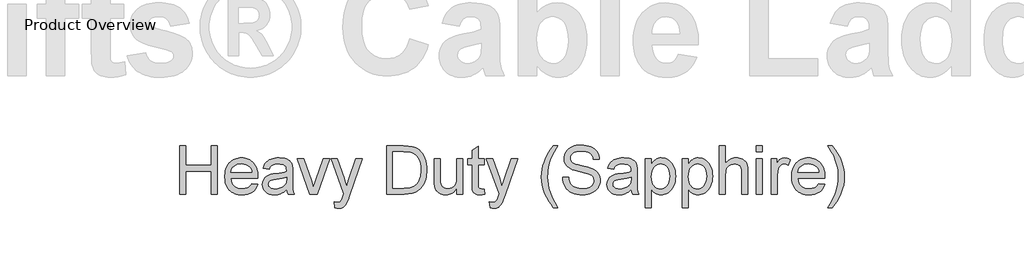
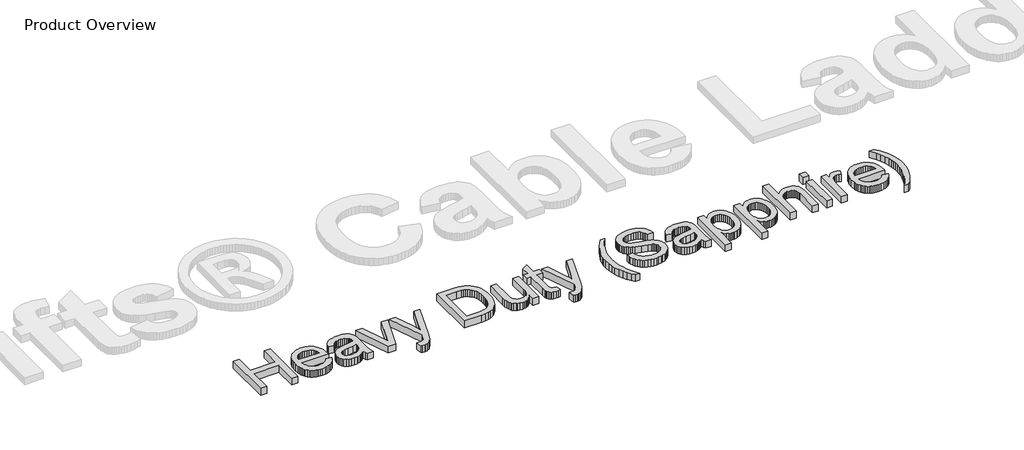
# One storey, part 10 of 11: 1 proxy.
"""IFC4 building model written with IfcOpenShell, lengths in millimetres."""

from ifc_helpers import new_model, si_unit, origin, origin_with_axes, place, context, project, spatial, polyline, outline, extrude, element, save

model = new_model("IFC4")

# Units and contexts
model_context = context("Model", 3, world=origin())
ifc_project = project(units=[si_unit("LENGTHUNIT", "METRE", prefix="MILLI")], contexts=[model_context])

# Site, building, storey
site = spatial("IfcSite", under=ifc_project)
building = spatial("IfcBuilding", under=site)
storey = spatial("IfcBuildingStorey", under=building, Name="Product Overview", Elevation=0.0)

# Proxy
placement = place(None, origin())
element("IfcBuildingElementProxy", 1, Name="1000mm", ObjectType="1000mm", at=placement, inside=storey, context=model_context, shape_type="SweptSolid", body=[
    extrude(outline(polyline([(-4886.9147151, -2802.9625714), (-4886.9147151, -1823.568632), (-4764.4904726, -1823.568632), (-4764.4904726, -2221.4474199), (-4244.1874423, -2221.4474199), (-4244.1874423, -1823.568632), (-4121.7631999, -1823.568632), (-4121.7631999, -2802.9625714), (-4244.1874423, -2802.9625714), (-4244.1874423, -2343.8716623), (-4764.4904726, -2343.8716623), (-4764.4904726, -2802.9625714), (-4886.9147151, -2802.9625714)])), origin_with_axes(), (0.0, 0.0, 1.0), 150.0),
    extrude(outline(polyline([(-3419.2584651, -2588.7201471), (-3299.2253211, -2604.0231774), (-3317.6293073, -2652.0992013), (-3342.474315, -2694.4664776), (-3373.7603442, -2731.1250063), (-3411.487395, -2762.0747873), (-3455.2669138, -2786.6582686), (-3504.7103472, -2804.2178981), (-3559.8176951, -2814.7536758), (-3620.5889575, -2818.2656017), (-3659.6049598, -2816.7506166), (-3696.5511675, -2812.2056615), (-3731.4275805, -2804.6307362), (-3764.234199, -2794.0258408), (-3794.9710228, -2780.3909753), (-3823.638052, -2763.7261397), (-3850.2352865, -2744.031334), (-3874.7627264, -2721.3065581), (-3896.7869851, -2695.8469634), (-3915.874676, -2667.947701), (-3932.0257991, -2637.6087709), (-3945.2403543, -2604.8301732), (-3955.5183417, -2569.6119078), (-3962.8597612, -2531.9539747), (-3968.7328969, -2449.3191055), (-3962.7999838, -2363.8821677), (-3955.3838424, -2324.9633038), (-3945.0012444, -2288.5775098), (-3931.6521899, -2254.7247858), (-3915.3366788, -2223.4051317), (-3896.0547112, -2194.6185476), (-3873.806287, -2168.3650335), (-3849.192917, -2144.9397405), (-3822.8161118, -2124.63782), (-3794.6758716, -2107.4592718), (-3764.7721961, -2093.404096), (-3733.1050856, -2082.4722926), (-3699.6745399, -2074.6638616), (-3664.4805591, -2069.978803), (-3627.5231431, -2068.4171168), (-3591.7743527, -2069.9750669), (-3557.6955952, -2074.6489173), (-3525.2868705, -2082.4386678), (-3494.5481786, -2093.3443185), (-3465.4795196, -2107.3658695), (-3438.0808935, -2124.5033207), (-3412.3523001, -2144.7566721), (-3388.2937397, -2168.1259236), (-3366.5216672, -2194.3196603), (-3347.6525376, -2223.046467), (-3331.6863511, -2254.3063436), (-3318.6231076, -2288.0992901), (-3308.4628071, -2324.4253066), (-3301.2054496, -2363.2843931), (-3295.3995636, -2448.6017759), (-3296.1168931, -2481.598935), (-3846.3086545, -2481.598935), (-3839.217553, -2530.4520659), (-3825.1175441, -2573.2377844), (-3804.0086278, -2609.9560906), (-3775.8908041, -2640.6069843), (-3742.3182869, -2664.7720233), (-3704.8452904, -2682.0327655), (-3663.4718144, -2692.3892108), (-3618.197859, -2695.8413593), (-3584.3339267, -2694.2423121), (-3553.0404253, -2689.4451708), (-3524.3173547, -2681.4499352), (-3498.1647151, -2670.2566055), (-3474.5825063, -2655.5662942), (-3453.5707283, -2637.080114), (-3435.1293813, -2614.798065), (-3419.2584651, -2588.7201471)]), holes=[polyline([(-3846.3086545, -2359.1746926), (-3417.823806, -2359.1746926), (-3424.1153839, -2324.5336533), (-3434.382163, -2294.4954786), (-3448.6241433, -2269.0601684), (-3466.8413249, -2248.2277229), (-3500.2270375, -2223.1211888), (-3538.2156147, -2205.1879502), (-3580.8070565, -2194.428007), (-3628.0013628, -2190.8413593), (-3671.0486077, -2193.7032053), (-3710.5241493, -2202.2887433), (-3746.4279874, -2216.5979732), (-3778.7601223, -2236.6308952), (-3805.8916179, -2261.4609586), (-3826.1935385, -2290.1616126), (-3839.665884, -2322.7328572), (-3846.3086545, -2359.1746926)])]), origin_with_axes(), (0.0, 0.0, 1.0), 150.0),
    extrude(outline(polyline([(-2713.884412, -2711.1443896), (-2742.9138421, -2738.3879679), (-2772.3766587, -2761.2976803), (-2802.272862, -2779.8735266), (-2832.6024518, -2794.115507), (-2863.7091487, -2804.6811734), (-2895.9366729, -2812.228078), (-2963.7542037, -2818.2656017), (-3018.263777, -2814.6341209), (-3066.0633301, -2803.7396784), (-3107.1528632, -2785.5822743), (-3141.5323761, -2760.1619085), (-3168.678816, -2729.0925726), (-3188.0691303, -2693.9882579), (-3199.7033189, -2654.8489646), (-3203.5813817, -2611.6746926), (-3197.7231904, -2560.9236272), (-3180.1486166, -2514.835204), (-3153.0395375, -2475.382079), (-3118.5778306, -2444.5369085), (-3078.0786, -2421.2236983), (-3032.8569499, -2404.366454), (-2988.8009603, -2394.9813924), (-2926.931287, -2385.9549956), (-2801.7572814, -2366.5870979), (-2753.4272032, -2355.6478223), (-2714.6017416, -2343.8716623), (-2713.884412, -2316.6131396), (-2715.9915676, -2286.9336296), (-2722.3130342, -2261.9765392), (-2732.8488119, -2241.7418683), (-2747.5989007, -2226.2296168), (-2773.0939883, -2210.7472541), (-2804.1483798, -2199.6884236), (-2840.7620754, -2193.0531254), (-2882.9350749, -2190.8413593), (-2922.1490901, -2192.3133793), (-2955.8635787, -2196.7294393), (-2984.0785408, -2204.0895393), (-3006.7939764, -2214.3936793), (-3025.459489, -2228.4488551), (-3041.5246819, -2247.0620624), (-3054.9895553, -2270.2333011), (-3065.854109, -2297.9625714), (-3188.2783514, -2282.6595411), (-3178.9605395, -2247.3908384), (-3167.0274636, -2215.7087835), (-3152.4791238, -2187.6133763), (-3135.31552, -2163.1046168), (-3114.7969061, -2141.689341), (-3090.1835361, -2122.8743848), (-3061.4754099, -2106.6597482), (-3028.6725276, -2093.0454312), (-2992.4399133, -2082.2705437), (-2953.4425915, -2074.5741954), (-2911.680562, -2069.9563865), (-2867.1538249, -2068.4171168), (-2784.3919286, -2073.8568659), (-2749.4445298, -2080.6565522), (-2718.7861639, -2090.176113), (-2669.320314, -2114.7147612), (-2650.2587758, -2129.0688243), (-2634.978162, -2144.8127134), (-2612.202949, -2182.0241836), (-2597.4379158, -2227.9033858), (-2592.9546062, -2270.225829), (-2591.4601696, -2335.0245979), (-2591.4601696, -2487.3375714), (-2589.9059556, -2620.0136486), (-2585.2433136, -2700.0257816), (-2576.0375844, -2752.6000595), (-2560.854109, -2802.9625714), (-2683.2783514, -2802.9625714), (-2702.885359, -2760.4010183), (-2713.884412, -2711.1443896)]), holes=[polyline([(-2713.884412, -2466.2959047), (-2796.1381999, -2486.6800193), (-2911.3891469, -2503.8361509), (-2974.9027004, -2513.2212125), (-3016.7170351, -2523.6822683), (-3044.1250015, -2537.2517522), (-3064.4194499, -2555.9620979), (-3076.972717, -2578.3786462), (-3081.1571393, -2603.066738), (-3078.8781236, -2622.0909154), (-3072.0410763, -2639.4712125), (-3060.6459976, -2655.2076294), (-3044.6928874, -2669.3001661), (-3024.3311894, -2680.9119381), (-2999.7103472, -2689.206061), (-2970.8303608, -2694.1825347), (-2937.6912302, -2695.8413593), (-2903.8571867, -2694.0106745), (-2871.9360219, -2688.5186201), (-2841.9277359, -2679.3651963), (-2813.8323287, -2666.5504028), (-2788.4866848, -2651.1352898), (-2766.7276886, -2634.1809071), (-2748.5553401, -2615.6872547), (-2733.9696393, -2595.6543327), (-2725.4961841, -2577.7210941), (-2719.443716, -2555.9620979), (-2714.6017416, -2500.9668327), (-2713.884412, -2466.2959047)])]), origin_with_axes(), (0.0, 0.0, 1.0), 150.0),
    extrude(outline(polyline([(-2246.6637681, -2802.9625714), (-2499.6419878, -2083.7201471), (-2370.0444499, -2083.7201471), (-2216.775037, -2514.5960941), (-2170.6268363, -2659.4966623), (-2125.4350749, -2522.725829), (-1971.2092226, -2083.7201471), (-1841.6116848, -2083.7201471), (-2091.4814764, -2802.9625714), (-2246.6637681, -2802.9625714)])), origin_with_axes(), (0.0, 0.0, 1.0), 150.0),
    extrude(outline(polyline([(-1734.4904726, -3078.4171168), (-1749.7935029, -2960.5359615), (-1716.4376791, -2968.6059189), (-1687.6249423, -2971.2959047), (-1654.9266706, -2967.9184781), (-1629.5212492, -2957.7861983), (-1609.7349092, -2941.6163948), (-1593.8938817, -2920.1263971), (-1580.3841753, -2888.5041197), (-1560.4185029, -2829.9819843), (-1550.854109, -2800.332363), (-1811.0056242, -2083.7201471), (-1681.886306, -2083.7201471), (-1543.9199234, -2483.0335941), (-1518.514502, -2560.9834047), (-1495.8588439, -2642.7589729), (-1447.7977643, -2501.6841623), (-1306.0056242, -2083.7201471), (-1177.8427454, -2083.7201471), (-1428.1907567, -2820.1784805), (-1465.3723382, -2918.0939634), (-1493.2286355, -2979.9038593), (-1526.5246819, -3030.8940344), (-1544.8315297, -3050.5159864), (-1564.2442605, -3066.2225146), (-1585.1813166, -3078.2527288), (-1608.0611403, -3086.845739), (-1632.8837314, -3092.0015451), (-1659.6490901, -3093.7201471), (-1695.0971251, -3089.8943896), (-1734.4904726, -3078.4171168)])), origin_with_axes(), (0.0, 0.0, 1.0), 150.0),
    extrude(outline(polyline([(-678.5813817, -2802.9625714), (-678.5813817, -1823.568632), (-340.7191658, -1823.568632), (-239.7550323, -1827.0955022), (-165.9298666, -1837.676113), (-125.3708585, -1849.3177738), (-87.8605011, -1864.8748583), (-53.3987941, -1884.3473666), (-21.9857378, -1907.7352986), (14.3141261, -1942.7648915), (45.7421268, -1982.3375714), (72.2982643, -2026.4533384), (93.9825387, -2075.1121926), (110.8248387, -2127.8658029), (122.8550529, -2184.2658384), (130.0731815, -2244.3122991), (132.4792243, -2308.005185), (130.8502885, -2362.1411491), (125.963481, -2413.1238522), (117.8188017, -2460.953294), (106.4162508, -2505.6294748), (76.6470747, -2584.3862811), (58.9828346, -2618.1829638), (39.4654933, -2648.2584994), (-3.3351696, -2698.6807887), (-49.9615901, -2737.0878081), (-103.4923074, -2765.5717688), (-167.0058609, -2786.224882), (-240.6218055, -2798.778149), (-324.4596961, -2802.9625714), (-678.5813817, -2802.9625714)]), holes=[polyline([(-556.1571393, -2680.538329), (-339.5236166, -2680.538329), (-249.9172009, -2676.1147968), (-213.2287835, -2670.5853815), (-181.9502264, -2662.8442002), (-130.6611639, -2641.5036462), (-109.4102761, -2628.0985503), (-91.088484, -2612.8702418), (-68.5000755, -2588.3241214), (-48.5568197, -2559.8775217), (-31.2587166, -2527.5304425), (-16.6057662, -2491.2828839), (-4.9416889, -2451.0601241), (3.3897949, -2406.7874412), (8.3886851, -2358.4648352), (10.0549819, -2306.0923062), (6.789638, -2235.0169038), (-3.0063936, -2172.6690108), (-19.3331129, -2119.0486272), (-42.19052, -2074.1557532), (-69.7255135, -2036.9741718), (-100.0849921, -2006.4876661), (-133.2689557, -1982.6962361), (-169.2774045, -1965.599882), (-200.3915735, -1957.0218162), (-239.6952548, -1950.8946263), (-342.8711545, -1945.9928744), (-556.1571393, -1945.9928744), (-556.1571393, -2680.538329)])]), origin_with_axes(), (0.0, 0.0, 1.0), 150.0),
    extrude(outline(polyline([(744.6004364, -2802.9625714), (744.6004364, -2679.3427797), (723.364493, -2711.9028161), (700.305337, -2740.1215143), (675.4229684, -2763.9988743), (648.7173872, -2783.5348962), (620.1885934, -2798.7295798), (589.836587, -2809.5829253), (557.661368, -2816.0949326), (523.6629364, -2818.2656017), (464.034918, -2812.1683005), (435.7676506, -2804.5466741), (408.5315444, -2793.8763971), (361.9649014, -2766.3787646), (343.837386, -2750.2986272), (329.1470747, -2732.6642759), (307.0593025, -2691.7167144), (292.6828228, -2642.519863), (287.3028512, -2596.1325524), (285.5095274, -2528.7035752), (285.5095274, -2083.7201471), (407.9337698, -2083.7201471), (407.9337698, -2471.0781017), (409.7868711, -2548.5496926), (415.3461751, -2595.8934426), (422.6763864, -2617.9587983), (433.1897475, -2637.528445), (446.8862585, -2654.6023826), (463.7659194, -2669.1806111), (483.3206217, -2680.8446884), (505.042257, -2689.1761722), (528.9308253, -2694.1750625), (554.9863266, -2695.8413593), (581.8189349, -2694.1377016), (607.7997144, -2689.0267286), (632.928665, -2680.5084402), (657.2057868, -2668.5828365), (679.3159756, -2653.720665), (697.9441273, -2636.3926732), (713.0902417, -2616.598861), (724.754319, -2594.3392286), (733.4369954, -2568.1940611), (739.6389071, -2536.7436438), (744.6004364, -2457.92706), (744.6004364, -2083.7201471), (867.0246789, -2083.7201471), (867.0246789, -2802.9625714), (744.6004364, -2802.9625714)])), origin_with_axes(), (0.0, 0.0, 1.0), 150.0),
    extrude(outline(polyline([(1295.5095274, -2700.8626661), (1310.8125577, -2806.5492191), (1262.3330359, -2815.336506), (1219.2334857, -2818.2656017), (1160.4722404, -2813.1845174), (1136.6957549, -2806.833162), (1116.6553607, -2797.9412646), (1085.6906353, -2774.4487219), (1065.4858531, -2744.6197683), (1058.9999985, -2723.5631573), (1054.3672452, -2693.3904833), (1050.6610425, -2605.6969464), (1050.6610425, -2206.1443896), (958.8428607, -2206.1443896), (958.8428607, -2083.7201471), (1050.6610425, -2083.7201471), (1050.6610425, -1908.9308479), (1173.0852849, -1836.9587835), (1173.0852849, -2083.7201471), (1295.5095274, -2083.7201471), (1295.5095274, -2206.1443896), (1173.0852849, -2206.1443896), (1173.0852849, -2602.1102986), (1174.6992764, -2642.4003081), (1179.5412508, -2665.2352986), (1187.9997617, -2677.8782319), (1200.4633626, -2687.5920695), (1218.1276026, -2693.7790368), (1242.1880311, -2695.8413593), (1295.5095274, -2700.8626661)])), origin_with_axes(), (0.0, 0.0, 1.0), 150.0),
    extrude(outline(polyline([(1417.9337698, -3078.4171168), (1402.6307395, -2960.5359615), (1435.9865633, -2968.6059189), (1464.7993001, -2971.2959047), (1497.4975719, -2967.9184781), (1522.9029933, -2957.7861983), (1542.6893332, -2941.6163948), (1558.5303607, -2920.1263971), (1572.0400671, -2888.5041197), (1592.0057395, -2829.9819843), (1601.5701334, -2800.332363), (1341.4186183, -2083.7201471), (1470.5379364, -2083.7201471), (1608.504319, -2483.0335941), (1633.9097404, -2560.9834047), (1656.5653986, -2642.7589729), (1704.6264781, -2501.6841623), (1846.4186183, -2083.7201471), (1974.5814971, -2083.7201471), (1724.2334857, -2820.1784805), (1687.0519042, -2918.0939634), (1659.1956069, -2979.9038593), (1625.8995605, -3030.8940344), (1607.5927127, -3050.5159864), (1588.1799819, -3066.2225146), (1567.2429258, -3078.2527288), (1544.3631022, -3086.845739), (1519.540511, -3092.0015451), (1492.7751524, -3093.7201471), (1457.3271173, -3089.8943896), (1417.9337698, -3078.4171168)])), origin_with_axes(), (0.0, 0.0, 1.0), 150.0),
    extrude(outline(polyline([(2703.3883152, -3078.4171168), (2653.9672984, -3014.4701767), (2608.5214828, -2945.2927087), (2567.0508685, -2870.8847127), (2529.5554554, -2791.2461888), (2498.4861194, -2708.2451826), (2476.2937366, -2623.7497399), (2462.9783069, -2537.7598607), (2458.5398304, -2450.2755449), (2461.8574795, -2373.3867842), (2471.810427, -2298.1419038), (2488.3986727, -2224.5409035), (2511.6222167, -2152.5837835), (2546.9208081, -2070.060997), (2590.6480217, -1987.717543), (2642.8038574, -1905.5534213), (2703.3883152, -1823.568632), (2795.2064971, -1823.568632), (2723.1746552, -1939.9553507), (2680.6728796, -2017.4867191), (2641.5784194, -2109.5440108), (2611.8092433, -2205.42706), (2598.3144812, -2266.5943481), (2588.6753654, -2327.9110799), (2582.891896, -2389.3772553), (2580.9640728, -2450.9928744), (2584.3116107, -2529.47321), (2594.3542243, -2607.9386012), (2611.0919137, -2686.3890481), (2634.5246789, -2764.8245505), (2664.6525198, -2843.2451087), (2701.4754364, -2921.6507224), (2744.9934289, -3000.0413918), (2795.2064971, -3078.4171168), (2703.3883152, -3078.4171168)])), origin_with_axes(), (0.0, 0.0, 1.0), 150.0),
    extrude(outline(polyline([(2887.0246789, -2466.2959047), (3009.4489213, -2466.2959047), (3015.0530584, -2501.9307443), (3023.4966249, -2534.2329904), (3034.7796209, -2563.202643), (3048.9020463, -2588.8397021), (3066.5812307, -2611.6597482), (3088.5345037, -2632.1783621), (3114.7618652, -2650.3955437), (3145.2633152, -2666.311293), (3178.9180264, -2679.230697), (3214.6051713, -2688.4588427), (3252.3247499, -2693.9957301), (3292.0767622, -2695.8413593), (3360.2828465, -2690.2521665), (3391.2027388, -2683.2656757), (3420.0005311, -2673.4845884), (3445.9663663, -2661.2600974), (3468.3903867, -2646.9433952), (3487.2725926, -2630.5344819), (3502.6129838, -2612.0333574), (3514.4862822, -2592.2395452), (3522.9672096, -2571.952569), (3528.0557661, -2551.1724287), (3529.7519516, -2529.8991244), (3524.6708673, -2488.9216741), (3509.4276145, -2453.5035278), (3496.6053489, -2437.7895275), (3478.4628891, -2423.2860207), (3455.0002352, -2409.9930076), (3426.2173872, -2397.910488), (3361.5680619, -2378.692034), (3247.9609952, -2351.1645127), (3130.9466131, -2320.229676), (3088.2430886, -2305.3226714), (3056.0753417, -2290.7892759), (3023.3845422, -2271.2868789), (2995.1322191, -2249.6026045), (2971.3183726, -2225.7364528), (2951.9430027, -2199.6884236), (2936.9313876, -2171.7275157), (2926.2088053, -2142.1227276), (2919.7752559, -2110.8740593), (2917.6307395, -2077.9815108), (2920.2833644, -2041.5247311), (2928.241239, -2006.278445), (2941.5043634, -1972.2426525), (2960.0727376, -1939.4173536), (2983.7371404, -1909.140069), (3012.2883507, -1882.7483195), (3045.7263686, -1860.242105), (3084.051194, -1841.6214255), (3125.9701393, -1827.0282526), (3170.1905169, -1816.6045576), (3216.7123268, -1810.3503407), (3265.535569, -1808.2656017), (3318.7972878, -1810.447479), (3368.8310236, -1816.9931111), (3415.6367764, -1827.902498), (3459.2145463, -1843.1756396), (3498.7573375, -1862.6780366), (3533.4581542, -1886.2751897), (3563.3169966, -1913.9670991), (3588.3338645, -1945.7537646), (3608.3144812, -1980.7086355), (3623.06457, -2017.9051613), (3632.5841308, -2057.343342), (3636.8731637, -2099.0231774), (3514.4489213, -2099.0231774), (3506.259409, -2059.9586059), (3491.9725955, -2025.9751187), (3471.588481, -1997.0727158), (3445.1070652, -1973.2513971), (3412.0351843, -1954.6307177), (3371.8796741, -1941.3302324), (3324.6405347, -1933.3499412), (3270.317766, -1930.6898441), (3214.2614509, -1933.3200524), (3166.3647594, -1941.2106774), (3126.6276914, -1954.3617191), (3095.0502471, -1972.7731774), (3070.9898185, -1994.9057828), (3053.8037982, -2019.2202655), (3043.492186, -2045.7166256), (3040.0549819, -2074.394863), (3042.4909135, -2099.0680105), (3049.7987082, -2121.4397257), (3061.9783661, -2141.5100086), (3079.0298872, -2159.2788593), (3105.8699677, -2176.1062148), (3148.1326334, -2193.1129028), (3205.8178844, -2210.2989232), (3278.9257205, -2227.6642759), (3413.90323, -2260.4821026), (3461.3964237, -2275.3218576), (3495.5592433, -2289.115507), (3533.0920173, -2310.0226744), (3565.3494303, -2333.5301613), (3592.3314823, -2359.6379679), (3614.0381732, -2388.3460941), (3630.7235573, -2419.5050962), (3642.6416888, -2452.9655307), (3649.7925677, -2488.7273974), (3652.176194, -2526.7906964), (3649.4339029, -2565.085633), (3641.2070297, -2602.2597423), (3627.4955743, -2638.3130241), (3608.2995368, -2673.2454786), (3583.9551654, -2705.7046405), (3554.7987082, -2734.3380449), (3520.8301654, -2759.1456916), (3482.0495368, -2780.1275808), (3439.5851222, -2796.812965), (3394.565221, -2808.7310965), (3346.9898333, -2815.8819754), (3296.8589592, -2818.2656017), (3234.2345954, -2815.6951708), (3176.9154814, -2807.9838782), (3124.9016172, -2795.1317238), (3078.1930027, -2777.1387077), (3036.5056951, -2753.9749412), (2999.5557513, -2725.6105354), (2967.3431714, -2692.0454904), (2939.8679554, -2653.2798062), (2917.73535, -2610.5688095), (2901.5506022, -2565.1678271), (2891.3137118, -2517.0768588), (2887.0246789, -2466.2959047)])), origin_with_axes(), (0.0, 0.0, 1.0), 150.0),
    extrude(outline(polyline([(4279.6004364, -2711.1443896), (4250.5710064, -2738.3879679), (4221.1081898, -2761.2976803), (4191.2119865, -2779.8735266), (4160.8823967, -2794.115507), (4129.7756998, -2804.6811734), (4097.5481756, -2812.228078), (4029.7306448, -2818.2656017), (3975.2210715, -2814.6341209), (3927.4215184, -2803.7396784), (3886.3319853, -2785.5822743), (3851.9524724, -2760.1619085), (3824.8060324, -2729.0925726), (3805.4157182, -2693.9882579), (3793.7815296, -2654.8489646), (3789.9034667, -2611.6746926), (3795.761658, -2560.9236272), (3813.3362319, -2514.835204), (3840.445311, -2475.382079), (3874.9070179, -2444.5369085), (3915.4062485, -2421.2236983), (3960.6278986, -2404.366454), (4004.6838882, -2394.9813924), (4066.5535614, -2385.9549956), (4191.7275671, -2366.5870979), (4240.0576453, -2355.6478223), (4278.8831069, -2343.8716623), (4279.6004364, -2316.6131396), (4277.4932809, -2286.9336296), (4271.1718143, -2261.9765392), (4260.6360366, -2241.7418683), (4245.8859478, -2226.2296168), (4220.3908602, -2210.7472541), (4189.3364686, -2199.6884236), (4152.7227731, -2193.0531254), (4110.5497736, -2190.8413593), (4071.3357584, -2192.3133793), (4037.6212698, -2196.7294393), (4009.4063077, -2204.0895393), (3986.6908721, -2214.3936793), (3968.0253595, -2228.4488551), (3951.9601666, -2247.0620624), (3938.4952932, -2270.2333011), (3927.6307395, -2297.9625714), (3805.2064971, -2282.6595411), (3814.524309, -2247.3908384), (3826.4573848, -2215.7087835), (3841.0057247, -2187.6133763), (3858.1693285, -2163.1046168), (3878.6879424, -2141.689341), (3903.3013124, -2122.8743848), (3932.0094386, -2106.6597482), (3964.8123209, -2093.0454312), (4001.0449351, -2082.2705437), (4040.042257, -2074.5741954), (4081.8042865, -2069.9563865), (4126.3310236, -2068.4171168), (4209.0929199, -2073.8568659), (4244.0403187, -2080.6565522), (4274.6986846, -2090.176113), (4324.1645345, -2114.7147612), (4343.2260727, -2129.0688243), (4358.5066864, -2144.8127134), (4381.2818995, -2182.0241836), (4396.0469327, -2227.9033858), (4400.5302423, -2270.225829), (4402.0246789, -2335.0245979), (4402.0246789, -2487.3375714), (4403.5788929, -2620.0136486), (4408.2415349, -2700.0257816), (4417.4472641, -2752.6000595), (4432.6307395, -2802.9625714), (4310.2064971, -2802.9625714), (4290.5994895, -2760.4010183), (4279.6004364, -2711.1443896)]), holes=[polyline([(4279.6004364, -2466.2959047), (4197.3466486, -2486.6800193), (4082.0957016, -2503.8361509), (4018.5821481, -2513.2212125), (3976.7678133, -2523.6822683), (3949.359847, -2537.2517522), (3929.0653986, -2555.9620979), (3916.5121315, -2578.3786462), (3912.3277092, -2603.066738), (3914.6067249, -2622.0909154), (3921.4437721, -2639.4712125), (3932.8388509, -2655.2076294), (3948.7919611, -2669.3001661), (3969.1536591, -2680.9119381), (3993.7745013, -2689.206061), (4022.6544877, -2694.1825347), (4055.7936183, -2695.8413593), (4089.6276618, -2694.0106745), (4121.5488266, -2688.5186201), (4151.5571126, -2679.3651963), (4179.6525198, -2666.5504028), (4204.9981637, -2651.1352898), (4226.7571599, -2634.1809071), (4244.9295084, -2615.6872547), (4259.5152092, -2595.6543327), (4267.9886644, -2577.7210941), (4274.0411325, -2555.9620979), (4278.8831069, -2500.9668327), (4279.6004364, -2466.2959047)])]), origin_with_axes(), (0.0, 0.0, 1.0), 150.0),
    extrude(outline(polyline([(4570.3580122, -3078.4171168), (4570.3580122, -2083.7201471), (4692.7822546, -2083.7201471), (4692.7822546, -2203.7532911), (4712.1501524, -2172.0338752), (4732.7135993, -2144.5437148), (4754.4725955, -2121.2828099), (4777.427141, -2102.2511604), (4802.2347878, -2087.4487663), (4829.553088, -2076.8756277), (4859.3820416, -2070.5317446), (4891.7216486, -2068.4171168), (4934.4177009, -2071.3761012), (4974.5134336, -2080.2530543), (5012.0088467, -2095.0479762), (5046.9039402, -2115.7608668), (5078.4365515, -2141.853729), (5105.8445179, -2172.7885657), (5129.1278394, -2208.5653768), (5148.286516, -2249.1841623), (5163.2458259, -2293.2550962), (5173.9310472, -2339.3883526), (5180.3421801, -2387.5839315), (5182.4792243, -2437.8418327), (5180.0657093, -2491.574299), (5172.8251642, -2542.5420576), (5160.757589, -2590.7451087), (5143.8629838, -2636.1834521), (5122.3729862, -2677.6690108), (5096.5192338, -2714.0137077), (5066.3017267, -2745.217543), (5031.7204649, -2771.2805165), (4994.4716338, -2791.8364912), (4956.2514189, -2806.5193304), (4917.0598203, -2815.3290339), (4876.896838, -2818.2656017), (4848.0019072, -2816.3004176), (4820.6163574, -2810.4048654), (4794.7401885, -2800.5789451), (4770.3734005, -2786.8226566), (4727.3635165, -2751.2251779), (4692.7822546, -2707.318632), (4692.7822546, -3078.4171168), (4570.3580122, -3078.4171168)]), holes=[polyline([(4692.7822546, -2449.0799956), (4696.0924316, -2508.0803507), (4706.0229625, -2558.8314161), (4722.5738473, -2601.3331916), (4745.7450861, -2635.5856774), (4773.6387443, -2661.9475382), (4804.3568877, -2680.7774388), (4837.8995161, -2692.0753791), (4874.2666296, -2695.8413593), (4911.1567959, -2691.9408799), (4945.3121434, -2680.2394416), (4976.7326719, -2660.7370446), (5005.4183815, -2633.4336888), (5029.3218942, -2597.9408207), (5046.3958318, -2553.8698867), (5056.6401944, -2501.220887), (5060.0549819, -2439.9938214), (5056.7223884, -2381.5015747), (5046.7246078, -2330.8401755), (5030.0616403, -2288.0096239), (5006.7334857, -2253.0099199), (4978.7725778, -2225.8111746), (4948.2113503, -2206.3834994), (4915.0498032, -2194.7268943), (4879.2879364, -2190.8413593), (4843.6381525, -2194.9734763), (4810.095524, -2207.3698275), (4778.6600511, -2228.0304129), (4749.3317338, -2256.9552324), (4724.5913367, -2293.7557325), (4706.9196244, -2338.0433597), (4696.3165971, -2389.8181141), (4692.7822546, -2449.0799956)])]), origin_with_axes(), (0.0, 0.0, 1.0), 150.0),
    extrude(outline(polyline([(5320.2064971, -3078.4171168), (5320.2064971, -2083.7201471), (5442.6307395, -2083.7201471), (5442.6307395, -2203.7532911), (5461.9986372, -2172.0338752), (5482.5620842, -2144.5437148), (5504.3210804, -2121.2828099), (5527.2756258, -2102.2511604), (5552.0832726, -2087.4487663), (5579.4015728, -2076.8756277), (5609.2305264, -2070.5317446), (5641.5701334, -2068.4171168), (5684.2661857, -2071.3761012), (5724.3619185, -2080.2530543), (5761.8573316, -2095.0479762), (5796.7524251, -2115.7608668), (5828.2850364, -2141.853729), (5855.6930027, -2172.7885657), (5878.9763242, -2208.5653768), (5898.1350008, -2249.1841623), (5913.0943107, -2293.2550962), (5923.7795321, -2339.3883526), (5930.1906649, -2387.5839315), (5932.3277092, -2437.8418327), (5929.9141941, -2491.574299), (5922.673649, -2542.5420576), (5910.6060739, -2590.7451087), (5893.7114686, -2636.1834521), (5872.221471, -2677.6690108), (5846.3677186, -2714.0137077), (5816.1502115, -2745.217543), (5781.5689497, -2771.2805165), (5744.3201186, -2791.8364912), (5706.0999038, -2806.5193304), (5666.9083052, -2815.3290339), (5626.7453228, -2818.2656017), (5597.8503921, -2816.3004176), (5570.4648422, -2810.4048654), (5544.5886733, -2800.5789451), (5520.2218853, -2786.8226566), (5477.2120013, -2751.2251779), (5442.6307395, -2707.318632), (5442.6307395, -3078.4171168), (5320.2064971, -3078.4171168)]), holes=[polyline([(5442.6307395, -2449.0799956), (5445.9409164, -2508.0803507), (5455.8714473, -2558.8314161), (5472.4223322, -2601.3331916), (5495.5935709, -2635.5856774), (5523.4872292, -2661.9475382), (5554.2053725, -2680.7774388), (5587.748001, -2692.0753791), (5624.1151145, -2695.8413593), (5661.0052808, -2691.9408799), (5695.1606282, -2680.2394416), (5726.5811567, -2660.7370446), (5755.2668664, -2633.4336888), (5779.170379, -2597.9408207), (5796.2443167, -2553.8698867), (5806.4886792, -2501.220887), (5809.9034667, -2439.9938214), (5806.5708732, -2381.5015747), (5796.5730927, -2330.8401755), (5779.9101251, -2288.0096239), (5756.5819705, -2253.0099199), (5728.6210626, -2225.8111746), (5698.0598351, -2206.3834994), (5664.898288, -2194.7268943), (5629.1364213, -2190.8413593), (5593.4866373, -2194.9734763), (5559.9440089, -2207.3698275), (5528.508536, -2228.0304129), (5499.1802186, -2256.9552324), (5474.4398215, -2293.7557325), (5456.7681093, -2338.0433597), (5446.1650819, -2389.8181141), (5442.6307395, -2449.0799956)])]), origin_with_axes(), (0.0, 0.0, 1.0), 150.0),
    extrude(outline(polyline([(6070.0549819, -2802.9625714), (6070.0549819, -1823.568632), (6192.4792243, -1823.568632), (6192.4792243, -2183.6680638), (6214.2718454, -2156.6561231), (6237.4468202, -2133.2457745), (6262.0041489, -2113.437018), (6287.9438313, -2097.2298536), (6315.2658676, -2084.6242812), (6343.9702577, -2075.620301), (6374.0570016, -2070.2179129), (6405.5260993, -2068.4171168), (6443.7986194, -2070.3823009), (6479.47082, -2076.2778531), (6512.5427009, -2086.1037734), (6543.0142622, -2099.8600619), (6570.1083969, -2117.0834432), (6593.047998, -2137.3106419), (6611.8330655, -2160.5416581), (6626.4635993, -2186.7764918), (6637.447708, -2217.6366067), (6645.2934999, -2254.7434663), (6650.000975, -2298.0970707), (6651.5701334, -2347.6974199), (6651.5701334, -2802.9625714), (6529.145891, -2802.9625714), (6529.145891, -2360.3702418), (6526.7099594, -2319.0341268), (6519.4021647, -2283.7355354), (6507.2225068, -2254.4744677), (6490.1709857, -2231.2509236), (6468.6510993, -2213.5717392), (6443.0663455, -2200.9437504), (6413.4167243, -2193.366957), (6379.7022357, -2190.8413593), (6353.4375133, -2192.5450169), (6327.9648422, -2197.6559899), (6303.2842225, -2206.1742783), (6279.3956542, -2218.099882), (6257.5918249, -2232.939637), (6239.1654222, -2250.2003791), (6224.1164462, -2269.8821085), (6212.4448967, -2291.9848252), (6203.709915, -2317.5247459), (6197.4706424, -2347.5180875), (6192.4792243, -2420.8650335), (6192.4792243, -2802.9625714), (6070.0549819, -2802.9625714)])), origin_with_axes(), (0.0, 0.0, 1.0), 150.0),
    extrude(outline(polyline([(6819.9034667, -2802.9625714), (6819.9034667, -2083.7201471), (6942.3277092, -2083.7201471), (6942.3277092, -2802.9625714), (6819.9034667, -2802.9625714)])), origin_with_axes(), (0.0, 0.0, 1.0), 150.0),
    extrude(outline(polyline([(6819.9034667, -1945.9928744), (6819.9034667, -1823.568632), (6942.3277092, -1823.568632), (6942.3277092, -1945.9928744), (6819.9034667, -1945.9928744)])), origin_with_axes(), (0.0, 0.0, 1.0), 150.0),
    extrude(outline(polyline([(7125.9640728, -2802.9625714), (7125.9640728, -2083.7201471), (7233.0852849, -2083.7201471), (7233.0852849, -2190.1240297), (7272.6579649, -2128.4336888), (7291.2786443, -2107.0931348), (7309.1222167, -2092.0889918), (7345.7060236, -2074.3350856), (7385.6373683, -2068.4171168), (7416.004319, -2070.7783266), (7446.6103796, -2077.8619558), (7477.4555501, -2089.6680046), (7508.5398304, -2106.1964729), (7467.6520463, -2215.9478933), (7424.6122736, -2197.1179928), (7381.5725008, -2190.8413593), (7345.0185828, -2196.8788829), (7312.3501997, -2214.991454), (7285.9584502, -2243.8041907), (7268.2344327, -2281.9422115), (7253.3498446, -2350.3276282), (7248.3883152, -2424.9299009), (7248.3883152, -2802.9625714), (7125.9640728, -2802.9625714)])), origin_with_axes(), (0.0, 0.0, 1.0), 150.0),
    extrude(outline(polyline([(8088.6203228, -2588.7201471), (8208.6534667, -2604.0231774), (8190.2494806, -2652.0992013), (8165.4044729, -2694.4664776), (8134.1184437, -2731.1250063), (8096.3913929, -2762.0747873), (8052.6118741, -2786.6582686), (8003.1684407, -2804.2178981), (7948.0610928, -2814.7536758), (7887.2898304, -2818.2656017), (7848.2738281, -2816.7506166), (7811.3276204, -2812.2056615), (7776.4512073, -2804.6307362), (7743.6445889, -2794.0258408), (7712.9077651, -2780.3909753), (7684.2407359, -2763.7261397), (7657.6435014, -2744.031334), (7633.1160614, -2721.3065581), (7611.0918027, -2695.8469634), (7592.0041119, -2667.947701), (7575.8529888, -2637.6087709), (7562.6384336, -2604.8301732), (7552.3604462, -2569.6119078), (7545.0190266, -2531.9539747), (7539.145891, -2449.3191055), (7545.0788041, -2363.8821677), (7552.4949455, -2324.9633038), (7562.8775435, -2288.5775098), (7576.226598, -2254.7247858), (7592.542109, -2223.4051317), (7611.8240767, -2194.6185476), (7634.0725008, -2168.3650335), (7658.6858709, -2144.9397405), (7685.062676, -2124.63782), (7713.2029163, -2107.4592718), (7743.1065917, -2093.404096), (7774.7737023, -2082.4722926), (7808.204248, -2074.6638616), (7843.3982288, -2069.978803), (7880.3556448, -2068.4171168), (7916.1044352, -2069.9750669), (7950.1831927, -2074.6489173), (7982.5919174, -2082.4386678), (8013.3306093, -2093.3443185), (8042.3992683, -2107.3658695), (8069.7978944, -2124.5033207), (8095.5264877, -2144.7566721), (8119.5850482, -2168.1259236), (8141.3571207, -2194.3196603), (8160.2262502, -2223.046467), (8176.1924368, -2254.3063436), (8189.2556803, -2288.0992901), (8199.4159808, -2324.4253066), (8206.6733383, -2363.2843931), (8212.4792243, -2448.6017759), (8211.7618948, -2481.598935), (7661.5701334, -2481.598935), (7668.6612349, -2530.4520659), (7682.7612437, -2573.2377844), (7703.87016, -2609.9560906), (7731.9879838, -2640.6069843), (7765.560501, -2664.7720233), (7803.0334975, -2682.0327655), (7844.4069735, -2692.3892108), (7889.6809289, -2695.8413593), (7923.5448612, -2694.2423121), (7954.8383626, -2689.4451708), (7983.5614331, -2681.4499352), (8009.7140728, -2670.2566055), (8033.2962816, -2655.5662942), (8054.3080596, -2637.080114), (8072.7494066, -2614.798065), (8088.6203228, -2588.7201471)]), holes=[polyline([(7661.5701334, -2359.1746926), (8090.0549819, -2359.1746926), (8083.763404, -2324.5336533), (8073.4966249, -2294.4954786), (8059.2546445, -2269.0601684), (8041.037463, -2248.2277229), (8007.6517504, -2223.1211888), (7969.6631732, -2205.1879502), (7927.0717314, -2194.428007), (7879.8774251, -2190.8413593), (7836.8301802, -2193.7032053), (7797.3546386, -2202.2887433), (7761.4508004, -2216.5979732), (7729.1186656, -2236.6308952), (7701.98717, -2261.4609586), (7681.6852494, -2290.1616126), (7668.2129039, -2322.7328572), (7661.5701334, -2359.1746926)])]), origin_with_axes(), (0.0, 0.0, 1.0), 150.0),
    extrude(outline(polyline([(8365.5095274, -3078.4171168), (8273.6913455, -3078.4171168), (8323.9044137, -3000.0413918), (8367.4224061, -2921.6507224), (8404.2453228, -2843.2451087), (8434.3731637, -2764.8245505), (8457.8059289, -2686.3890481), (8474.5436183, -2607.9386012), (8484.5862319, -2529.47321), (8487.9337698, -2450.9928744), (8486.0059466, -2389.7807532), (8480.2224772, -2328.8077418), (8470.5833614, -2268.0738403), (8457.0885993, -2207.5790486), (8427.8574203, -2111.516667), (8388.9422925, -2019.3995979), (8346.2611846, -1941.0313451), (8273.6913455, -1823.568632), (8365.5095274, -1823.568632), (8426.0939852, -1905.5534213), (8478.2498209, -1987.717543), (8521.9770345, -2070.060997), (8557.2756258, -2152.5837835), (8580.4991699, -2224.5409035), (8597.0874156, -2298.1419038), (8607.0403631, -2373.3867842), (8610.3580122, -2450.2755449), (8605.8971191, -2537.7598607), (8592.5144398, -2623.7497399), (8570.2099742, -2708.2451826), (8538.9837224, -2791.2461888), (8501.3762266, -2870.8847127), (8459.9280288, -2945.2927087), (8414.639129, -3014.4701767), (8365.5095274, -3078.4171168)])), origin_with_axes(), (0.0, 0.0, 1.0), 150.0),
])

save(model, "model.ifc")
